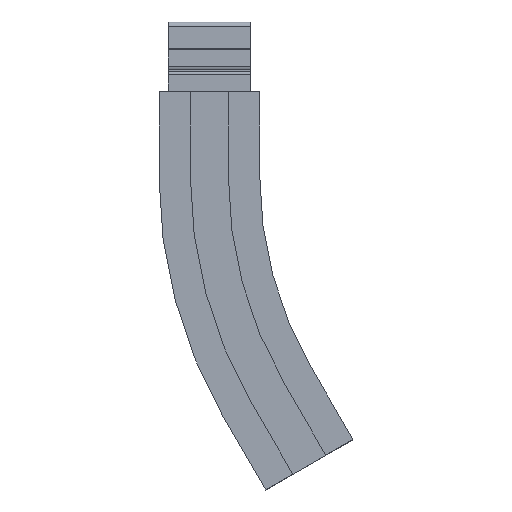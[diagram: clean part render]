
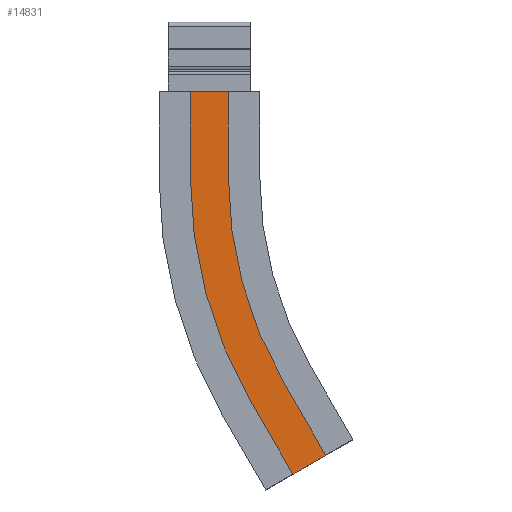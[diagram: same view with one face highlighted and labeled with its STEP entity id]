
A CAD part, front view. The second image highlights one B-rep face of the part: STEP entity #14831.
In plain terms, the highlighted planar face has unit normal (0, -1, 0).
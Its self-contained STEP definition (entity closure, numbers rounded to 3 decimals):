
#2558 = FACE_OUTER_BOUND ( 'NONE', #11791, .T. ) ;
#3050 = CIRCLE ( 'NONE', #14474, 534. ) ;
#3058 = VECTOR ( 'NONE', #9389, 1000. ) ;
#3059 = LINE ( 'NONE', #9390, #3058 ) ;
#3097 = CIRCLE ( 'NONE', #14471, 466. ) ;
#3128 = VECTOR ( 'NONE', #9416, 1000. ) ;
#3130 = LINE ( 'NONE', #9418, #3128 ) ;
#3375 = VECTOR ( 'NONE', #9537, 1000. ) ;
#3376 = LINE ( 'NONE', #9538, #3375 ) ;
#3377 = VECTOR ( 'NONE', #9540, 1000. ) ;
#3378 = LINE ( 'NONE', #9541, #3377 ) ;
#3379 = VECTOR ( 'NONE', #9542, 1000. ) ;
#3380 = LINE ( 'NONE', #9543, #3379 ) ;
#3381 = VECTOR ( 'NONE', #9544, 1000. ) ;
#3382 = LINE ( 'NONE', #9545, #3381 ) ;
#3774 = CARTESIAN_POINT ( 'NONE',  ( -97.551, -43.722, -71.965 ) ) ;
#3777 = CARTESIAN_POINT ( 'NONE',  ( -169.094, -43.722, 195.035 ) ) ;
#3781 = CARTESIAN_POINT ( 'NONE',  ( -169.094, -43.722, 295.035 ) ) ;
#3789 = CARTESIAN_POINT ( 'NONE',  ( -38.662, -43.722, -37.965 ) ) ;
#3793 = CARTESIAN_POINT ( 'NONE',  ( -101.094, -43.722, 195.035 ) ) ;
#3796 = CARTESIAN_POINT ( 'NONE',  ( -101.094, -43.722, 295.035 ) ) ;
#3897 = CARTESIAN_POINT ( 'NONE',  ( 11.338, -43.722, -124.567 ) ) ;
#3898 = CARTESIAN_POINT ( 'NONE',  ( -47.551, -43.722, -158.567 ) ) ;
#7657 = ORIENTED_EDGE ( 'NONE', *, *, #8062, .F. ) ;
#7658 = ORIENTED_EDGE ( 'NONE', *, *, #8063, .F. ) ;
#7659 = ORIENTED_EDGE ( 'NONE', *, *, #8114, .T. ) ;
#7660 = ORIENTED_EDGE ( 'NONE', *, *, #8111, .T. ) ;
#7661 = ORIENTED_EDGE ( 'NONE', *, *, #8061, .T. ) ;
#7662 = ORIENTED_EDGE ( 'NONE', *, *, #8120, .F. ) ;
#7663 = ORIENTED_EDGE ( 'NONE', *, *, #8123, .F. ) ;
#7664 = ORIENTED_EDGE ( 'NONE', *, *, #8060, .T. ) ;
#8060 = EDGE_CURVE ( 'NONE', #13399, #13523, #3382, .T. ) ;
#8061 = EDGE_CURVE ( 'NONE', #13421, #13406, #3380, .T. ) ;
#8062 = EDGE_CURVE ( 'NONE', #13522, #13523, #3378, .T. ) ;
#8063 = EDGE_CURVE ( 'NONE', #13414, #13522, #3376, .T. ) ;
#8111 = EDGE_CURVE ( 'NONE', #13418, #13421, #3130, .T. ) ;
#8114 = EDGE_CURVE ( 'NONE', #13414, #13418, #3097, .T. ) ;
#8120 = EDGE_CURVE ( 'NONE', #13402, #13406, #3059, .T. ) ;
#8123 = EDGE_CURVE ( 'NONE', #13399, #13402, #3050, .T. ) ;
#9379 = DIRECTION ( 'NONE',  ( -0.5, 0., 0.866 ) ) ;
#9380 = DIRECTION ( 'NONE',  ( 0., 1., 0. ) ) ;
#9381 = CARTESIAN_POINT ( 'NONE',  ( 364.906, -43.722, 195.035 ) ) ;
#9389 = DIRECTION ( 'NONE',  ( 0., 0., 1. ) ) ;
#9390 = CARTESIAN_POINT ( 'NONE',  ( -169.094, -43.722, 195.035 ) ) ;
#9406 = DIRECTION ( 'NONE',  ( -0.5, 0., 0.866 ) ) ;
#9408 = DIRECTION ( 'NONE',  ( 0., 1., 0. ) ) ;
#9410 = CARTESIAN_POINT ( 'NONE',  ( 364.906, -43.722, 195.035 ) ) ;
#9416 = DIRECTION ( 'NONE',  ( 0., 0., 1. ) ) ;
#9418 = CARTESIAN_POINT ( 'NONE',  ( -101.094, -43.722, 195.035 ) ) ;
#9537 = DIRECTION ( 'NONE',  ( 0.5, 0., -0.866 ) ) ;
#9538 = CARTESIAN_POINT ( 'NONE',  ( -38.662, -43.722, -37.965 ) ) ;
#9540 = DIRECTION ( 'NONE',  ( -0.866, 0., -0.5 ) ) ;
#9541 = CARTESIAN_POINT ( 'NONE',  ( 11.338, -43.722, -124.567 ) ) ;
#9542 = DIRECTION ( 'NONE',  ( -1., 0., 0. ) ) ;
#9543 = CARTESIAN_POINT ( 'NONE',  ( -101.094, -43.722, 295.035 ) ) ;
#9544 = DIRECTION ( 'NONE',  ( 0.5, 0., -0.866 ) ) ;
#9545 = CARTESIAN_POINT ( 'NONE',  ( -97.551, -43.722, -71.965 ) ) ;
#10185 = AXIS2_PLACEMENT_3D ( 'NONE', #16079, #16080, #16081 ) ;
#11791 = EDGE_LOOP ( 'NONE', ( #7657, #7658, #7659, #7660, #7661, #7662, #7663, #7664 ) ) ;
#13399 = VERTEX_POINT ( 'NONE', #3774 ) ;
#13402 = VERTEX_POINT ( 'NONE', #3777 ) ;
#13406 = VERTEX_POINT ( 'NONE', #3781 ) ;
#13414 = VERTEX_POINT ( 'NONE', #3789 ) ;
#13418 = VERTEX_POINT ( 'NONE', #3793 ) ;
#13421 = VERTEX_POINT ( 'NONE', #3796 ) ;
#13522 = VERTEX_POINT ( 'NONE', #3897 ) ;
#13523 = VERTEX_POINT ( 'NONE', #3898 ) ;
#14471 = AXIS2_PLACEMENT_3D ( 'NONE', #9410, #9408, #9406 ) ;
#14474 = AXIS2_PLACEMENT_3D ( 'NONE', #9381, #9380, #9379 ) ;
#14831 = ADVANCED_FACE ( 'NONE', ( #2558 ), #16078, .T. ) ;
#16078 = PLANE ( 'NONE',  #10185 ) ;
#16079 = CARTESIAN_POINT ( 'NONE',  ( -38.662, -43.722, -37.965 ) ) ;
#16080 = DIRECTION ( 'NONE',  ( 0., -1., 0. ) ) ;
#16081 = DIRECTION ( 'NONE',  ( -0.866, 0., -0.5 ) ) ;
